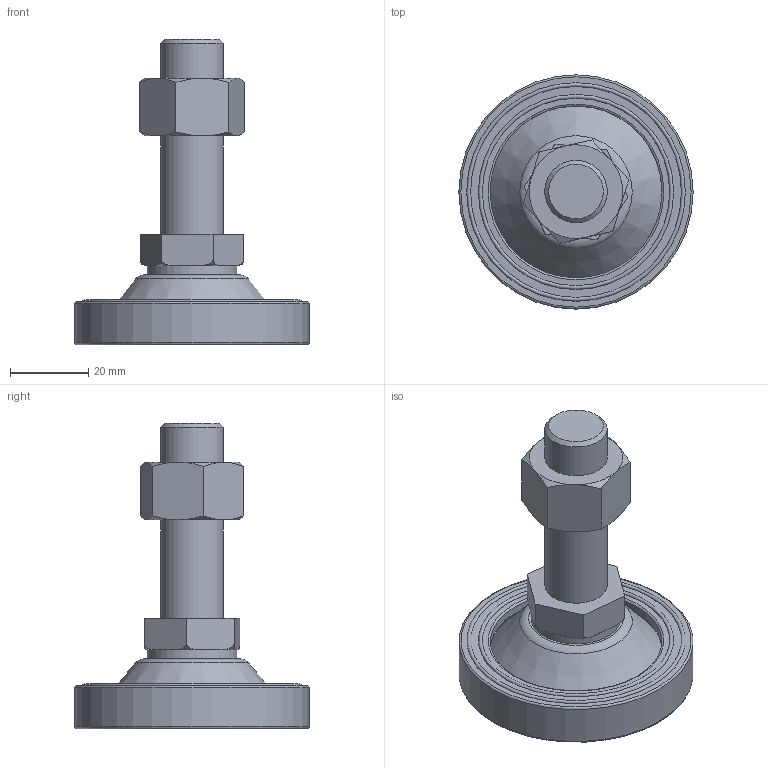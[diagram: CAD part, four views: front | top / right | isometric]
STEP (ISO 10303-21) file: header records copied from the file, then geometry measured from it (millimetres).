
FILE_DESCRIPTION((' '),'2;1');
FILE_NAME('Y:\00. A standard brand\06. 3D Modeling\외부전송용_STEP\LEVELLING FOOT(STEP)\A-PLR SERIES STEP\A-PLR-16-50.stp.stp','2011-11-22T18:39:53',(' '),(' '),' ','ACIS',' ');
FILE_SCHEMA(('CONFIG_CONTROL_DESIGN'));
Length unit declared in the file: millimetre
Products named in the file (1): Y:\00. A standard brand\06. 3D Modeling\외부전송용_STEP\LEVELLING FOOT(STEP)\A-PLR SERIES STEP\A-PLR-16-50.stp.stp
Bounding box: 60 x 60 x 78.31 mm (x, y, z)
Volume: 46779.1 mm3; surface area: 19195.8 mm2
Topology: 3 solids, 4 shells, 114 faces, 253 edges, 157 vertices
Faces by surface type: plane 55, cylinder 20, cone 17, torus 15, bspline 7
Full cylindrical faces by diameter (mm): 8 x1, 12 x2, 16 x3, 19.27 x1, 23 x1, 31 x1, 44 x2, 60 x1
Entity records: 3375 total; most frequent: CARTESIAN_POINT 973, DIRECTION 476, ORIENTED_EDGE 424, EDGE_CURVE 212, AXIS2_PLACEMENT_3D 192, EDGE_LOOP 160, VERTEX_POINT 149, FACE_OUTER_BOUND 114
